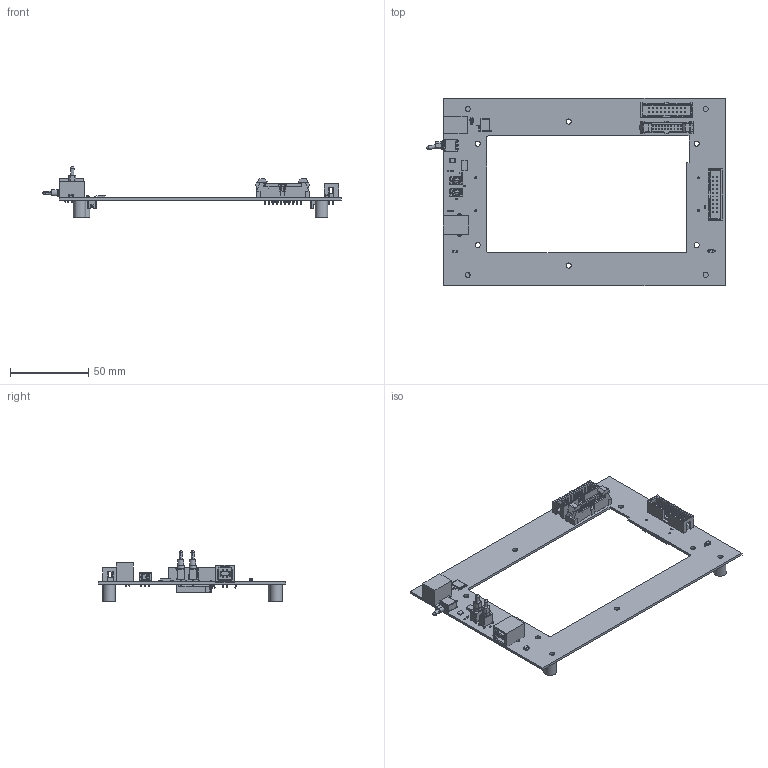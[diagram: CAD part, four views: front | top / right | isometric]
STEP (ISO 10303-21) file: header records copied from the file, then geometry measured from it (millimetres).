
FILE_DESCRIPTION(('Open CASCADE Model'),'2;1');
FILE_NAME('Open CASCADE Shape Model','2021-06-21T16:42:49',('Author'),( 'Open CASCADE'),'Open CASCADE STEP processor 6.8','Open CASCADE 6.8' ,'Unknown');
FILE_SCHEMA(('AUTOMOTIVE_DESIGN { 1 0 10303 214 1 1 1 1 }'));
Length unit declared in the file: millimetre
Products named in the file (94): PCB; Board; Open CASCADE STEP translator 6.8 6.1.1; P3; TST-110-02-G-D; _TST-110-02-D_header; _TST-First_Position_Indicator; _T-1S6-10-02-D; P1; P900; TFM-115-02-S-D-LC; _TFM-115-02-L-D-LC_terminal; _TFM-115-02-L-D_pins; P902; C1; 5813700064; Terminal; Open_CASCADE_STEP_translator_6.8_4.1.1; Open_CASCADE_STEP_translator_6.8_4.1.2; Mid_Body; Open_CASCADE_STEP_translator_6.8_4.2.1; C2; 5813699984; C3; 7960082080; Open_CASCADE_STEP_translator_6.8_7.1.1; Open_CASCADE_STEP_translator_6.8_7.1.2; Open_CASCADE_STEP_translator_6.8_7.2.1; D1; 5808310048; Open_CASCADE_STEP_translator_6.8_1.1.1; Open_CASCADE_STEP_translator_6.8_1.1.2; Open_CASCADE_STEP_translator_6.8_1.2.1; F1; 7947940816; Open_CASCADE_STEP_translator_6.8_2.2.1; Mark; J1; USB-B-S-X-X-TH1; USB-B-S-X-X-TH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
Assembly tree (109 placements, depth 5):
  PCB
    Board
      Open CASCADE STEP translator 6.8 6.1.1
    P3
      TST-110-02-G-D
        _TST-110-02-D_header
        _TST-First_Position_Indicator
        _T-1S6-10-02-D
    P1
      TST-110-02-G-D
        _TST-110-02-D_header
        _TST-First_Position_Indicator
        _T-1S6-10-02-D
    P900
      TFM-115-02-S-D-LC
        _TFM-115-02-L-D-LC_terminal
        _TFM-115-02-L-D_pins
    P902
      TFM-115-02-S-D-LC
        _TFM-115-02-L-D-LC_terminal
        _TFM-115-02-L-D_pins
    C1
      5813700064
        Terminal
          Open_CASCADE_STEP_translator_6.8_4.1.1
          Open_CASCADE_STEP_translator_6.8_4.1.2
        Mid_Body
          Open_CASCADE_STEP_translator_6.8_4.2.1
    C2
      5813699984
        Terminal
          Open_CASCADE_STEP_translator_6.8_4.1.1
          Open_CASCADE_STEP_translator_6.8_4.1.2
        Mid_Body
          Open_CASCADE_STEP_translator_6.8_4.2.1
    C3
      7960082080
        Terminal
          Open_CASCADE_STEP_translator_6.8_7.1.1
          Open_CASCADE_STEP_translator_6.8_7.1.2
        Mid_Body
          Open_CASCADE_STEP_translator_6.8_7.2.1
    D1
      5808310048
        Terminal
          Open_CASCADE_STEP_translator_6.8_1.1.1
          Open_CASCADE_STEP_translator_6.8_1.1.2
        Mid_Body
          Open_CASCADE_STEP_translator_6.8_1.2.1
    F1
      7947940816
        Mid_Body
        Terminal  x2
          Open_CASCADE_STEP_translator_6.8_2.2.1
        Mark
    J1
      USB-B-S-X-X-TH1
        USB-B-S-X-X-TH
    P2
      8003280288
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Bounding box: 190.67 x 120 x 32.38 mm (x, y, z)
Volume: 29493.6 mm3; surface area: 41191 mm2
Topology: 66 solids, 87 shells, 3064 faces, 8308 edges, 5392 vertices
Faces by surface type: plane 2251, cylinder 667, sphere 68, bspline 52, cone 22, torus 4
Full cylindrical faces by diameter (mm): 0.457 x60, 0.6 x8, 0.89 x20, 0.9 x40, 0.92 x4, 1.1 x11, 1.2 x4, 2.3 x2, 3.3 x10, 8 x4
Entity records: 68782 total; most frequent: CARTESIAN_POINT 13492, ORIENTED_EDGE 10648, DIRECTION 10231, EDGE_CURVE 5378, LINE 4227, VECTOR 4227, VERTEX_POINT 3509, AXIS2_PLACEMENT_3D 3002
